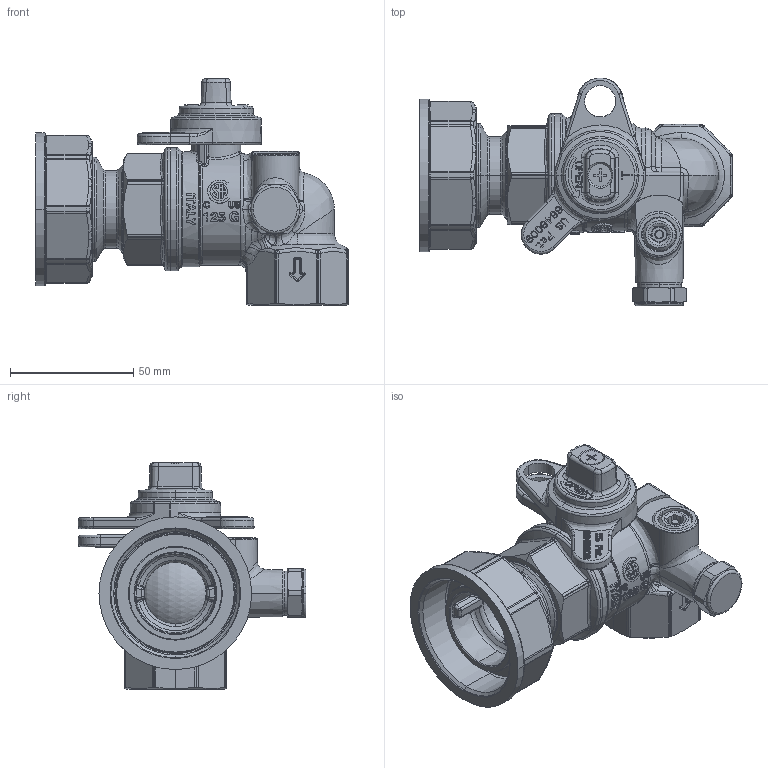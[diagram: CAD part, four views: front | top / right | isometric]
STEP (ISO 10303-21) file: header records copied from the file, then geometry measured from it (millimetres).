
FILE_DESCRIPTION(('Open CASCADE Model'),'2;1');
FILE_NAME('Open CASCADE Shape Model','2021-12-01T10:23:06',('Author'),( 'Open CASCADE'),'Open CASCADE STEP processor 7.3','Open CASCADE 7.3' ,'Unknown');
FILE_SCHEMA(('AUTOMOTIVE_DESIGN { 1 0 10303 214 1 1 1 1 }'));
Length unit declared in the file: millimetre
Products named in the file (38): Open CASCADE STEP translator 7.3 1; Open CASCADE STEP translator 7.3 1.1; Open CASCADE STEP translator 7.3 1.2; Open CASCADE STEP translator 7.3 1.3; Open CASCADE STEP translator 7.3 1.4; Open CASCADE STEP translator 7.3 1.5; Open CASCADE STEP translator 7.3 1.6; Open CASCADE STEP translator 7.3 1.7; Open CASCADE STEP translator 7.3 1.8; Open CASCADE STEP translator 7.3 1.9; Open CASCADE STEP translator 7.3 1.10; Open CASCADE STEP translator 7.3 1.11; Open CASCADE STEP translator 7.3 1.12; Open CASCADE STEP translator 7.3 1.13; Open CASCADE STEP translator 7.3 1.14; Open CASCADE STEP translator 7.3 1.15; Open CASCADE STEP translator 7.3 1.16; Open CASCADE STEP translator 7.3 1.17; Open CASCADE STEP translator 7.3 1.18; Open CASCADE STEP translator 7.3 1.19; Open CASCADE STEP translator 7.3 1.20; Open CASCADE STEP translator 7.3 1.21; Open CASCADE STEP translator 7.3 1.22; Open CASCADE STEP translator 7.3 1.23; Open CASCADE STEP translator 7.3 1.24; Open CASCADE STEP translator 7.3 1.25; Open CASCADE STEP translator 7.3 1.26; Open CASCADE STEP translator 7.3 1.27; Open CASCADE STEP translator 7.3 1.28; Open CASCADE STEP translator 7.3 1.29; Open CASCADE STEP translator 7.3 1.30; Open CASCADE STEP translator 7.3 1.31; Open CASCADE STEP translator 7.3 1.32; Open CASCADE STEP translator 7.3 1.33; Open CASCADE STEP translator 7.3 1.34; Open CASCADE STEP translator 7.3 1.35; Open CASCADE STEP translator 7.3 1.36; Open CASCADE STEP translator 7.3 1.37
Assembly tree (37 placements, depth 2):
  Open CASCADE STEP translator 7.3 1
    Open CASCADE STEP translator 7.3 1.1
    Open CASCADE STEP translator 7.3 1.2
    Open CASCADE STEP translator 7.3 1.3
    Open CASCADE STEP translator 7.3 1.4
    Open CASCADE STEP translator 7.3 1.5
    Open CASCADE STEP translator 7.3 1.6
    Open CASCADE STEP translator 7.3 1.7
    Open CASCADE STEP translator 7.3 1.8
    Open CASCADE STEP translator 7.3 1.9
    Open CASCADE STEP translator 7.3 1.10
    Open CASCADE STEP translator 7.3 1.11
    Open CASCADE STEP translator 7.3 1.12
    Open CASCADE STEP translator 7.3 1.13
    Open CASCADE STEP translator 7.3 1.14
    Open CASCADE STEP translator 7.3 1.15
    Open CASCADE STEP translator 7.3 1.16
    Open CASCADE STEP translator 7.3 1.17
    Open CASCADE STEP translator 7.3 1.18
    Open CASCADE STEP translator 7.3 1.19
    Open CASCADE STEP translator 7.3 1.20
    Open CASCADE STEP translator 7.3 1.21
    Open CASCADE STEP translator 7.3 1.22
    Open CASCADE STEP translator 7.3 1.23
    Open CASCADE STEP translator 7.3 1.24
    Open CASCADE STEP translator 7.3 1.25
    Open CASCADE STEP translator 7.3 1.26
    Open CASCADE STEP translator 7.3 1.27
    Open CASCADE STEP translator 7.3 1.28
    Open CASCADE STEP translator 7.3 1.29
    Open CASCADE STEP translator 7.3 1.30
    Open CASCADE STEP translator 7.3 1.31
    Open CASCADE STEP translator 7.3 1.32
    Open CASCADE STEP translator 7.3 1.33
    Open CASCADE STEP translator 7.3 1.34
    Open CASCADE STEP translator 7.3 1.35
    Open CASCADE STEP translator 7.3 1.36
    Open CASCADE STEP translator 7.3 1.37
Bounding box: 127.05 x 92.48 x 92 mm (x, y, z)
Volume: 183326.8 mm3; surface area: 103103 mm2
Topology: 19 solids, 37 shells, 2698 faces, 6913 edges, 4344 vertices
Faces by surface type: plane 981, cylinder 437, bspline 437, extrusion 372, torus 204, cone 203, sphere 48, revolution 16
Entity records: 281397 total; most frequent: CARTESIAN_POINT 155093, DIRECTION 19220, ORIENTED_EDGE 13702, PCURVE 13702, DEFINITIONAL_REPRESENTATION 13702, VECTOR 11902, LINE 11530, B_SPLINE_CURVE_WITH_KNOTS 7387
